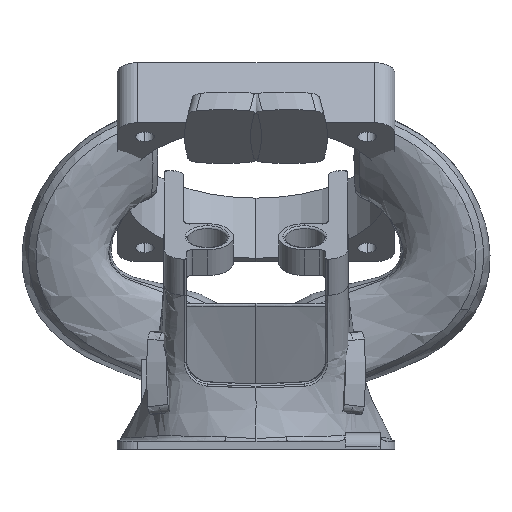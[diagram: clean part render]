
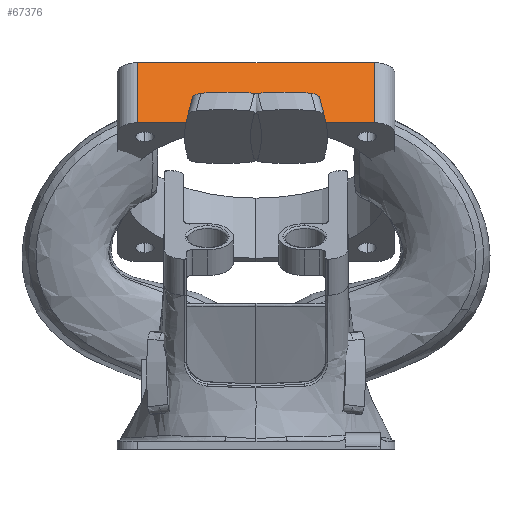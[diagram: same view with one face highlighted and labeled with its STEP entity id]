
A CAD part, front view. The second image highlights one B-rep face of the part: STEP entity #67376.
In plain terms, the highlighted planar face has unit normal (0, -0.866, 0.5).
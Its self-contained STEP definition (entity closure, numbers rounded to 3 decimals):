
#2461 = FACE_OUTER_BOUND ( 'NONE', #85251, .T. ) ;
#7777 = LINE ( 'NONE', #84094, #120085 ) ;
#19223 = LINE ( 'NONE', #48994, #25165 ) ;
#24534 = ORIENTED_EDGE ( 'NONE', *, *, #136471, .T. ) ;
#25165 = VECTOR ( 'NONE', #61887, 1000. ) ;
#31478 = CARTESIAN_POINT ( 'NONE',  ( -20., -19., 55.66 ) ) ;
#34545 = CARTESIAN_POINT ( 'NONE',  ( -20., -24., 47. ) ) ;
#35187 = VERTEX_POINT ( 'NONE', #76895 ) ;
#37289 = ORIENTED_EDGE ( 'NONE', *, *, #156889, .T. ) ;
#43305 = CARTESIAN_POINT ( 'NONE',  ( 17., -19., 55.66 ) ) ;
#48994 = CARTESIAN_POINT ( 'NONE',  ( 17., -19., 55.66 ) ) ;
#61887 = DIRECTION ( 'NONE',  ( 0., 0.5, 0.866 ) ) ;
#63278 = DIRECTION ( 'NONE',  ( 0., 0.5, 0.866 ) ) ;
#66173 = VECTOR ( 'NONE', #73707, 1000. ) ;
#67376 = ADVANCED_FACE ( 'NONE', ( #2461 ), #138441, .F. ) ;
#73430 = LINE ( 'NONE', #31478, #157719 ) ;
#73707 = DIRECTION ( 'NONE',  ( 0., -0.5, -0.866 ) ) ;
#76895 = CARTESIAN_POINT ( 'NONE',  ( -17., -24., 47. ) ) ;
#78051 = CARTESIAN_POINT ( 'NONE',  ( 0., -24., 47. ) ) ;
#84094 = CARTESIAN_POINT ( 'NONE',  ( -20., -24., 47. ) ) ;
#85251 = EDGE_LOOP ( 'NONE', ( #24534, #108647, #37289, #127008, #161567 ) ) ;
#87861 = VERTEX_POINT ( 'NONE', #78051 ) ;
#94768 = EDGE_CURVE ( 'NONE', #137044, #35187, #144366, .T. ) ;
#100669 = CARTESIAN_POINT ( 'NONE',  ( -17., -19., 55.66 ) ) ;
#102121 = EDGE_CURVE ( 'NONE', #87861, #135441, #7777, .T. ) ;
#108647 = ORIENTED_EDGE ( 'NONE', *, *, #102121, .T. ) ;
#109091 = AXIS2_PLACEMENT_3D ( 'NONE', #164204, #140083, #63278 ) ;
#110274 = VECTOR ( 'NONE', #124804, 1000. ) ;
#120085 = VECTOR ( 'NONE', #161395, 1000. ) ;
#122175 = LINE ( 'NONE', #34545, #110274 ) ;
#124804 = DIRECTION ( 'NONE',  ( 1., 0., 0. ) ) ;
#125261 = CARTESIAN_POINT ( 'NONE',  ( -17., -19., 55.66 ) ) ;
#127008 = ORIENTED_EDGE ( 'NONE', *, *, #151770, .F. ) ;
#127163 = VERTEX_POINT ( 'NONE', #43305 ) ;
#135441 = VERTEX_POINT ( 'NONE', #138786 ) ;
#136267 = DIRECTION ( 'NONE',  ( 1., 0., 0. ) ) ;
#136471 = EDGE_CURVE ( 'NONE', #35187, #87861, #122175, .T. ) ;
#137044 = VERTEX_POINT ( 'NONE', #100669 ) ;
#138441 = PLANE ( 'NONE',  #109091 ) ;
#138786 = CARTESIAN_POINT ( 'NONE',  ( 17., -24., 47. ) ) ;
#140083 = DIRECTION ( 'NONE',  ( 0., 0.866, -0.5 ) ) ;
#144366 = LINE ( 'NONE', #125261, #66173 ) ;
#151770 = EDGE_CURVE ( 'NONE', #137044, #127163, #73430, .T. ) ;
#156889 = EDGE_CURVE ( 'NONE', #135441, #127163, #19223, .T. ) ;
#157719 = VECTOR ( 'NONE', #136267, 1000. ) ;
#161395 = DIRECTION ( 'NONE',  ( 1., 0., 0. ) ) ;
#161567 = ORIENTED_EDGE ( 'NONE', *, *, #94768, .T. ) ;
#164204 = CARTESIAN_POINT ( 'NONE',  ( -20., -19., 55.66 ) ) ;
